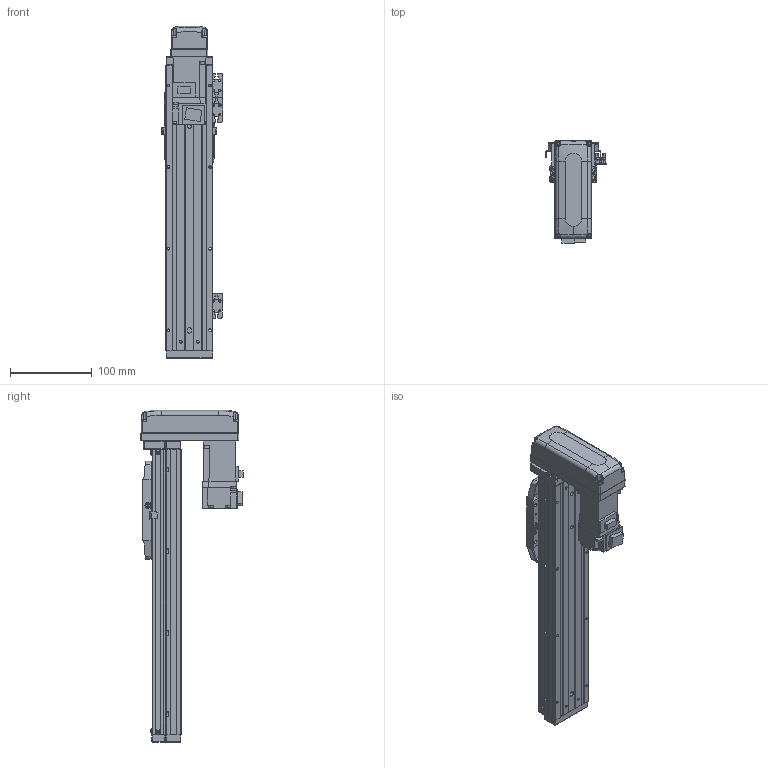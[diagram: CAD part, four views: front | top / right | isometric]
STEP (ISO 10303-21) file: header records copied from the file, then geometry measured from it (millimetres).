
FILE_DESCRIPTION (( 'STEP AP203' ), '1' );
FILE_NAME ('CTHA50-200-BM-M10-C4L.step', '2022-03-19T06:02:48', ( '微软用户' ), ( '微软中国' ), 'SwSTEP 2.0', 'SolidWorks 2020', '' );
FILE_SCHEMA (( 'CONFIG_CONTROL_DESIGN' ));
Length unit declared in the file: millimetre
Products named in the file (20): CTHA50-015-2_CTHA60-015-2; GB¨uT 70.2-M3¡Á6_M3¡Á6; CTHA60-021; CTHA60-033; EE_SX911P_R; HG-KR13（三菱）; GBT 70.1-M3×15; GBT77-2000 M3×3; CTHA50-002; CTHA50-200-BM-M10-C4L; GBT 70.1-M3℅6; CTHA50-030; KTHA50-001_350; CTHA60-017; CTHA50-031; KTHA50-004; GBT 70.1-M4×12; GBT 70.3-M3℅6; KTHA50-005; CTHA60-016
Assembly tree (60 placements, depth 2):
  CTHA50-200-BM-M10-C4L
    KTHA50-001_350
    KTHA50-004
    KTHA50-005
    GB¨uT 70.2-M3¡Á6_M3¡Á6  x10
    EE_SX911P_R  x3
    GBT77-2000 M3×3  x6
    GBT 70.1-M3℅6  x6
    CTHA60-017  x3
    GBT 70.1-M4×12  x10
    CTHA60-016  x2
    CTHA60-021  x2
    HG-KR13（三菱）
    CTHA50-002
    CTHA50-030  x2
    CTHA50-031
    GBT 70.3-M3℅6  x4
    CTHA50-015-2_CTHA60-015-2
    CTHA60-033
    GBT 70.1-M3×15  x4
Bounding box: 74.12 x 125.3 x 407 mm (x, y, z)
Volume: 945901.9 mm3; surface area: 247425.4 mm2
Topology: 62 solids, 62 shells, 2473 faces, 5855 edges, 3582 vertices
Faces by surface type: plane 1398, cylinder 570, cone 347, torus 108, bspline 26, sphere 24
Entity records: 41393 total; most frequent: CARTESIAN_POINT 7659, DIRECTION 6425, ORIENTED_EDGE 6218, EDGE_CURVE 3109, LINE 2169, VECTOR 2169, AXIS2_PLACEMENT_3D 2128, VERTEX_POINT 1956
